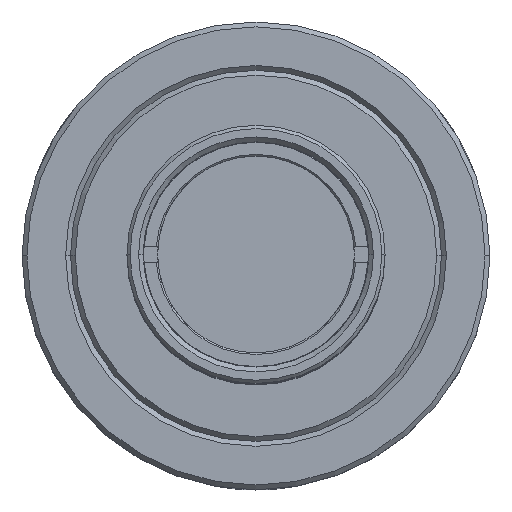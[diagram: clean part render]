
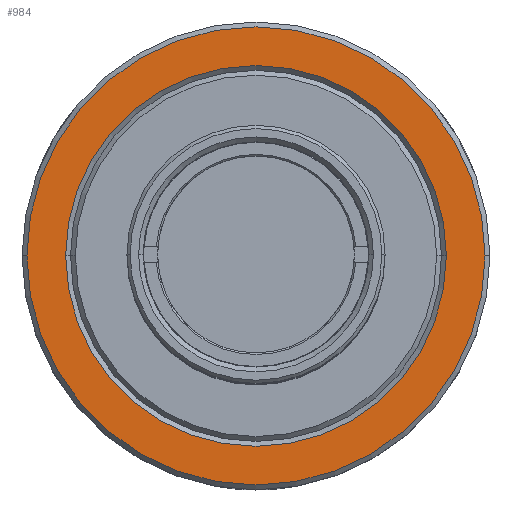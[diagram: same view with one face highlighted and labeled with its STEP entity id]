
A CAD part, top view. The second image highlights one B-rep face of the part: STEP entity #984.
In plain terms, the highlighted planar face has unit normal (0, 0, 1).
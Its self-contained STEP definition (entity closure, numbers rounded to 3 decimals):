
#2 = VERTEX_POINT ( 'NONE', #1526 ) ;
#840 = ORIENTED_EDGE ( 'NONE', *, *, #877, .T. ) ;
#846 = ORIENTED_EDGE ( 'NONE', *, *, #1094, .T. ) ;
#848 = EDGE_LOOP ( 'NONE', ( #846, #840 ) ) ;
#877 = EDGE_CURVE ( 'NONE', #1108, #2, #2763, .T. ) ;
#878 = EDGE_CURVE ( 'NONE', #1031, #1024, #2800, .T. ) ;
#935 = ORIENTED_EDGE ( 'NONE', *, *, #1050, .T. ) ;
#937 = EDGE_LOOP ( 'NONE', ( #965, #935 ) ) ;
#965 = ORIENTED_EDGE ( 'NONE', *, *, #878, .T. ) ;
#984 = ADVANCED_FACE ( 'NONE', ( #3129, #3115 ), #3090, .F. ) ;
#1024 = VERTEX_POINT ( 'NONE', #3195 ) ;
#1031 = VERTEX_POINT ( 'NONE', #3145 ) ;
#1050 = EDGE_CURVE ( 'NONE', #1024, #1031, #3291, .T. ) ;
#1094 = EDGE_CURVE ( 'NONE', #2, #1108, #3390, .T. ) ;
#1108 = VERTEX_POINT ( 'NONE', #3306 ) ;
#1526 = CARTESIAN_POINT ( 'NONE',  ( 11.8, 0., -20.58 ) ) ;
#2757 = CARTESIAN_POINT ( 'NONE',  ( 0., 0., -20.58 ) ) ;
#2762 = AXIS2_PLACEMENT_3D ( 'NONE', #2757, #2866, #2848 ) ;
#2763 = CIRCLE ( 'NONE', #2865, 11.8 ) ;
#2800 = CIRCLE ( 'NONE', #2762, 14.2 ) ;
#2848 = DIRECTION ( 'NONE',  ( -1., 0., 0. ) ) ;
#2849 = DIRECTION ( 'NONE',  ( -1., 0., 0. ) ) ;
#2850 = DIRECTION ( 'NONE',  ( 0., 0., -1. ) ) ;
#2851 = CARTESIAN_POINT ( 'NONE',  ( 0., 0., -20.58 ) ) ;
#2865 = AXIS2_PLACEMENT_3D ( 'NONE', #2851, #2850, #2849 ) ;
#2866 = DIRECTION ( 'NONE',  ( 0., 0., 1. ) ) ;
#3061 = DIRECTION ( 'NONE',  ( -1., 0., 0. ) ) ;
#3062 = DIRECTION ( 'NONE',  ( 0., 0., -1. ) ) ;
#3063 = CARTESIAN_POINT ( 'NONE',  ( 0., 11.5, -20.58 ) ) ;
#3090 = PLANE ( 'NONE',  #3114 ) ;
#3114 = AXIS2_PLACEMENT_3D ( 'NONE', #3063, #3062, #3061 ) ;
#3115 = FACE_OUTER_BOUND ( 'NONE', #937, .T. ) ;
#3129 = FACE_BOUND ( 'NONE', #848, .T. ) ;
#3145 = CARTESIAN_POINT ( 'NONE',  ( -14.2, 0., -20.58 ) ) ;
#3195 = CARTESIAN_POINT ( 'NONE',  ( 14.2, 0., -20.58 ) ) ;
#3281 = DIRECTION ( 'NONE',  ( -1., 0., 0. ) ) ;
#3282 = DIRECTION ( 'NONE',  ( 0., 0., 1. ) ) ;
#3283 = CARTESIAN_POINT ( 'NONE',  ( 0., 0., -20.58 ) ) ;
#3284 = AXIS2_PLACEMENT_3D ( 'NONE', #3283, #3282, #3281 ) ;
#3291 = CIRCLE ( 'NONE', #3284, 14.2 ) ;
#3306 = CARTESIAN_POINT ( 'NONE',  ( -11.8, 0., -20.58 ) ) ;
#3330 = DIRECTION ( 'NONE',  ( -1., 0., 0. ) ) ;
#3331 = DIRECTION ( 'NONE',  ( 0., 0., -1. ) ) ;
#3332 = CARTESIAN_POINT ( 'NONE',  ( 0., 0., -20.58 ) ) ;
#3351 = AXIS2_PLACEMENT_3D ( 'NONE', #3332, #3331, #3330 ) ;
#3390 = CIRCLE ( 'NONE', #3351, 11.8 ) ;
